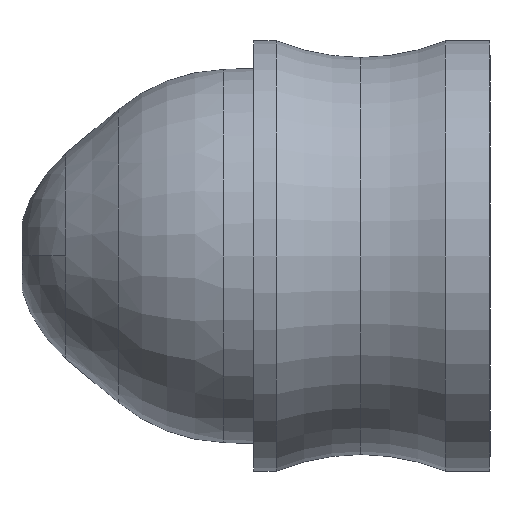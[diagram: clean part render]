
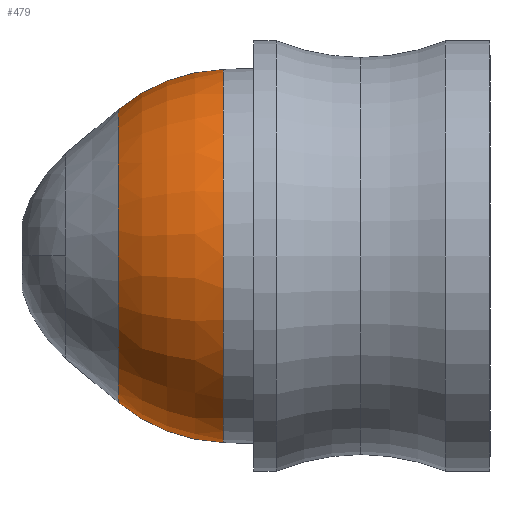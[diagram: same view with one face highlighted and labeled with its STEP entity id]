
A CAD part, front view. The second image highlights one B-rep face of the part: STEP entity #479.
In plain terms, the highlighted toroidal (fillet/blend) face has major radius 0.288 mm and minor radius 3.9 mm.
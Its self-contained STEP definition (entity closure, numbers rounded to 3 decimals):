
#29 = CARTESIAN_POINT ( 'NONE',  ( -5.983, 0., -4.186 ) ) ;
#142 = DIRECTION ( 'NONE',  ( 0., 0., -1. ) ) ;
#185 = CARTESIAN_POINT ( 'NONE',  ( -8.343, 0., 0. ) ) ;
#192 = VERTEX_POINT ( 'NONE', #1431 ) ;
#203 = DIRECTION ( 'NONE',  ( 1., 0., 0. ) ) ;
#218 = CARTESIAN_POINT ( 'NONE',  ( -5.983, 0., 4.186 ) ) ;
#219 = DIRECTION ( 'NONE',  ( 0., 0., -1. ) ) ;
#298 = AXIS2_PLACEMENT_3D ( 'NONE', #647, #1073, #520 ) ;
#356 = CIRCLE ( 'NONE', #1143, 3.9 ) ;
#419 = CIRCLE ( 'NONE', #1543, 3.285 ) ;
#427 = CARTESIAN_POINT ( 'NONE',  ( -5.983, 0., 0. ) ) ;
#463 = DIRECTION ( 'NONE',  ( 0., -1., 0. ) ) ;
#479 = ADVANCED_FACE ( 'NONE', ( #630 ), #991, .T. ) ;
#481 = ORIENTED_EDGE ( 'NONE', *, *, #1071, .T. ) ;
#520 = DIRECTION ( 'NONE',  ( 0., 0., 1. ) ) ;
#607 = EDGE_LOOP ( 'NONE', ( #1561, #481, #680, #1718 ) ) ;
#630 = FACE_OUTER_BOUND ( 'NONE', #607, .T. ) ;
#647 = CARTESIAN_POINT ( 'NONE',  ( -5.847, 0., 0.289 ) ) ;
#680 = ORIENTED_EDGE ( 'NONE', *, *, #716, .T. ) ;
#716 = EDGE_CURVE ( 'NONE', #192, #1371, #356, .T. ) ;
#762 = DIRECTION ( 'NONE',  ( 0., 0., -1. ) ) ;
#789 = DIRECTION ( 'NONE',  ( 1., 0., 0. ) ) ;
#987 = EDGE_CURVE ( 'NONE', #1459, #1371, #1059, .T. ) ;
#991 = TOROIDAL_SURFACE ( 'NONE', #1285, 0.289, 3.9 ) ;
#1059 = CIRCLE ( 'NONE', #1320, 4.186 ) ;
#1071 = EDGE_CURVE ( 'NONE', #1529, #192, #419, .T. ) ;
#1073 = DIRECTION ( 'NONE',  ( 0., 1., 0. ) ) ;
#1143 = AXIS2_PLACEMENT_3D ( 'NONE', #1621, #463, #1775 ) ;
#1285 = AXIS2_PLACEMENT_3D ( 'NONE', #1357, #789, #219 ) ;
#1320 = AXIS2_PLACEMENT_3D ( 'NONE', #427, #1427, #142 ) ;
#1357 = CARTESIAN_POINT ( 'NONE',  ( -5.847, 0., 0. ) ) ;
#1371 = VERTEX_POINT ( 'NONE', #29 ) ;
#1427 = DIRECTION ( 'NONE',  ( 1., 0., 0. ) ) ;
#1431 = CARTESIAN_POINT ( 'NONE',  ( -8.343, 0., -3.285 ) ) ;
#1459 = VERTEX_POINT ( 'NONE', #218 ) ;
#1480 = EDGE_CURVE ( 'NONE', #1529, #1459, #1693, .T. ) ;
#1529 = VERTEX_POINT ( 'NONE', #1667 ) ;
#1543 = AXIS2_PLACEMENT_3D ( 'NONE', #185, #203, #762 ) ;
#1561 = ORIENTED_EDGE ( 'NONE', *, *, #1480, .F. ) ;
#1621 = CARTESIAN_POINT ( 'NONE',  ( -5.847, 0., -0.289 ) ) ;
#1667 = CARTESIAN_POINT ( 'NONE',  ( -8.343, 0., 3.285 ) ) ;
#1693 = CIRCLE ( 'NONE', #298, 3.9 ) ;
#1718 = ORIENTED_EDGE ( 'NONE', *, *, #987, .F. ) ;
#1775 = DIRECTION ( 'NONE',  ( 0., 0., -1. ) ) ;
